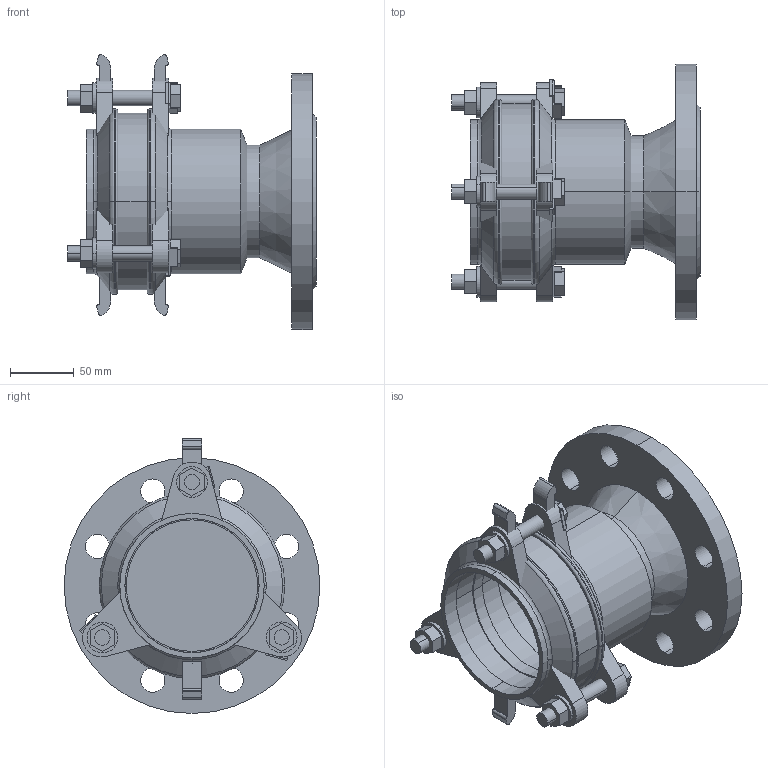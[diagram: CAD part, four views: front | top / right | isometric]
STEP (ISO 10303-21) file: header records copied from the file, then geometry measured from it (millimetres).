
FILE_DESCRIPTION(('STEP AP214'),'1');
FILE_NAME('EM000039 DN 80.STP','2015-01-29T09:02:47',(' '),(' '),'Spatial InterOp 3D',' ',' ');
FILE_SCHEMA(('automotive_design'));
Length unit declared in the file: millimetre
Products named in the file (38): 3D-Objekt
Bounding box: 194 x 200 x 215.05 mm (x, y, z)
Volume: 1132608.3 mm3; surface area: 362144 mm2
Topology: 38 solids, 38 shells, 307 faces, 691 edges, 460 vertices
Faces by surface type: plane 186, cylinder 95, cone 14, torus 12
Entity records: 12021 total; most frequent: DIRECTION 1633, CARTESIAN_POINT 1496, ORIENTED_EDGE 1382, EDGE_CURVE 691, AXIS2_PLACEMENT_3D 597, VERTEX_POINT 460, LINE 439, VECTOR 439
